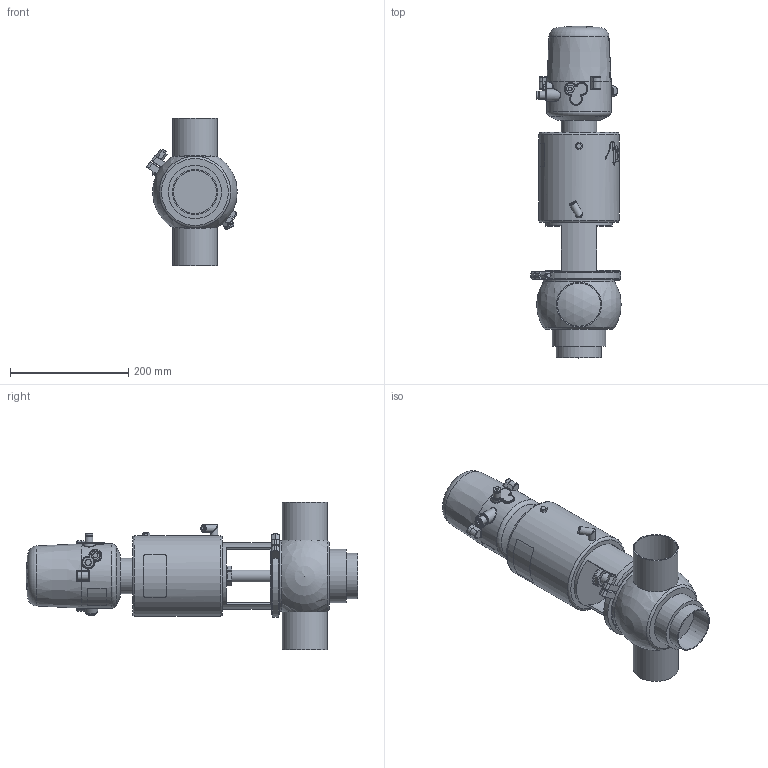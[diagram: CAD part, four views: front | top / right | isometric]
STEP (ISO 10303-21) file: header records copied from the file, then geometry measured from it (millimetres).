
FILE_DESCRIPTION (( 'STEP AP214' ), '1' );
FILE_NAME ('INNOVA N T W OD 3 T3 AS NC & C-TOP S_10.240.16.0058.STEP', '2024-08-06T08:17:51', ( '' ), ( '' ), 'SwSTEP 2.0', 'SolidWorks 2023', '' );
FILE_SCHEMA (( 'AUTOMOTIVE_DESIGN' ));
Length unit declared in the file: millimetre
Products named in the file (7): 10.240.15.0014_T3 AS P0; INNOVA N T W OD 3 T3 AS NC & C-TOP S_10.240.16.0058; 10.426.15.0001_C-TOP S - 1 EV; 10.240.15.0003_OD 3"; 10.240.15.0017_Estàndard; 10.240.15.0010_DN 080; 10.240.15.0001_DN 080
Assembly tree (6 placements, depth 2):
  INNOVA N T W OD 3 T3 AS NC & C-TOP S_10.240.16.0058
    10.240.15.0003_OD 3"
    10.240.15.0010_DN 080
    10.240.15.0014_T3 AS P0
    10.240.15.0017_Estàndard
    10.426.15.0001_C-TOP S - 1 EV
    10.240.15.0001_DN 080
Bounding box: 152.93 x 561 x 250 mm (x, y, z)
Volume: 5385668.4 mm3; surface area: 428940.3 mm2
Topology: 6 solids, 6 shells, 1103 faces, 2650 edges, 1769 vertices
Faces by surface type: plane 376, cylinder 332, cone 191, bspline 160, torus 37, sphere 7
Full cylindrical faces by diameter (mm): 0.371 x17, 0.512 x16, 0.658 x16, 0.795 x16, 0.94 x15, 1.098 x15, 1.241 x13, 1.382 x13, 1.523 x11, 1.669 x10, 2.201 x1, 4 x2, 5.5 x2, 6 x2, 6.15 x1, 8 x4, 8.5 x1, 10 x1, 10.5 x1, 11 x2, 12.5 x3, 13 x2, 13.5 x2, 16 x1, 17 x3, 20 x3, 20.5 x1, 22 x2, 31 x1, 34.5 x3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
Entity records: 57824 total; most frequent: CARTESIAN_POINT 27813, ORIENTED_EDGE 4492, DIRECTION 3609, EDGE_CURVE 2246, VERTEX_POINT 1597, EDGE_LOOP 1555, AXIS2_PLACEMENT_3D 1476, FACE_OUTER_BOUND 1317
